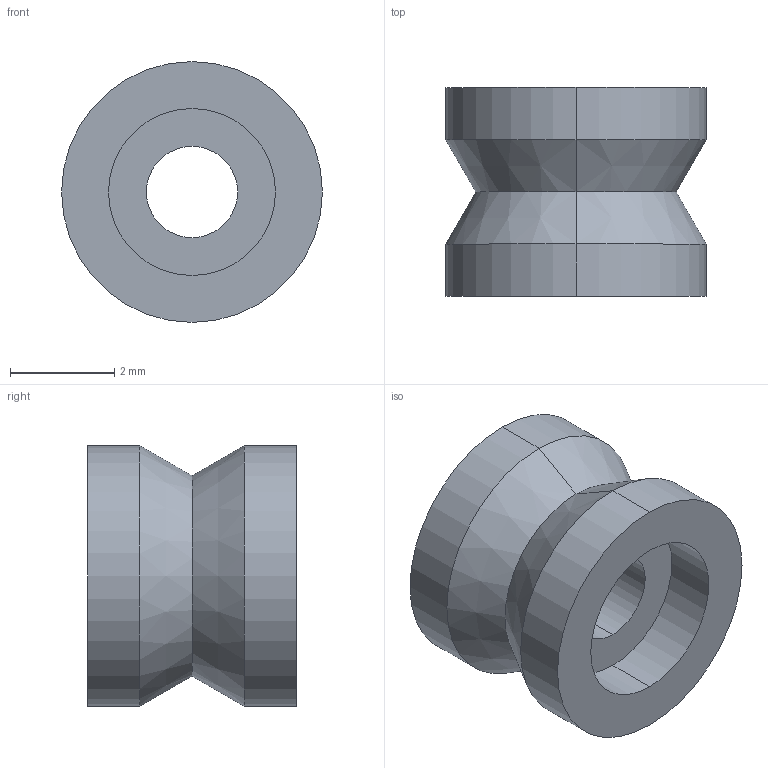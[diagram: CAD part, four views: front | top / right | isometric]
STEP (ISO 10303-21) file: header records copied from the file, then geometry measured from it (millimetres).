
FILE_DESCRIPTION (( 'STEP AP214' ), '1' );
FILE_NAME ('Pressure Vessel Anvil - Bottom Through-flow.STEP', '2023-02-21T22:39:26', ( '' ), ( '' ), 'SwSTEP 2.0', 'SolidWorks 2022', '' );
FILE_SCHEMA (( 'AUTOMOTIVE_DESIGN' ));
Length unit declared in the file: millimetre
Products named in the file (1): Pressure Vessel Anvil - Bottom Through-flow
Bounding box: 5 x 4 x 5 mm (x, y, z)
Volume: 54.9 mm3; surface area: 124.5 mm2
Topology: 1 solids, 1 shells, 15 faces, 30 edges, 18 vertices
Faces by surface type: cylinder 8, cone 4, plane 3
Entity records: 432 total; most frequent: DIRECTION 80, CARTESIAN_POINT 64, ORIENTED_EDGE 60, AXIS2_PLACEMENT_3D 34, EDGE_CURVE 30, EDGE_LOOP 18, VERTEX_POINT 18, CIRCLE 18
